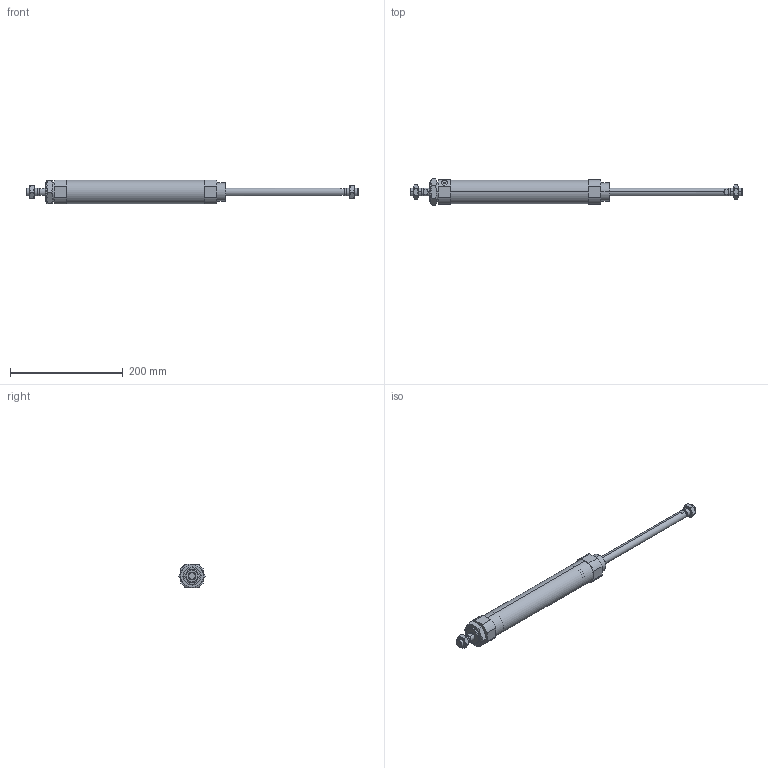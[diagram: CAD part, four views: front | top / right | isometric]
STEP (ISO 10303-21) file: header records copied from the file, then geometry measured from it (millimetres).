
FILE_DESCRIPTION (( 'STEP AP203' ), '1' );
FILE_NAME ('CSM2B40-200-P.STEP', '2020-07-20T16:52:00', ( '' ), ( '' ), 'SwSTEP 2.0', 'SolidWorks 2019', '' );
FILE_SCHEMA (( 'CONFIG_CONTROL_DESIGN' ));
Length unit declared in the file: millimetre
Products named in the file (1): CSM2B40-200-P
Bounding box: 588 x 47.34 x 42.5 mm (x, y, z)
Volume: 263168.2 mm3; surface area: 114022.4 mm2
Topology: 5 solids, 5 shells, 155 faces, 362 edges, 227 vertices
Faces by surface type: plane 63, cylinder 48, cone 44
Entity records: 5729 total; most frequent: CARTESIAN_POINT 2109, DIRECTION 750, ORIENTED_EDGE 720, EDGE_CURVE 360, AXIS2_PLACEMENT_3D 296, VERTEX_POINT 227, EDGE_LOOP 179, LINE 158
